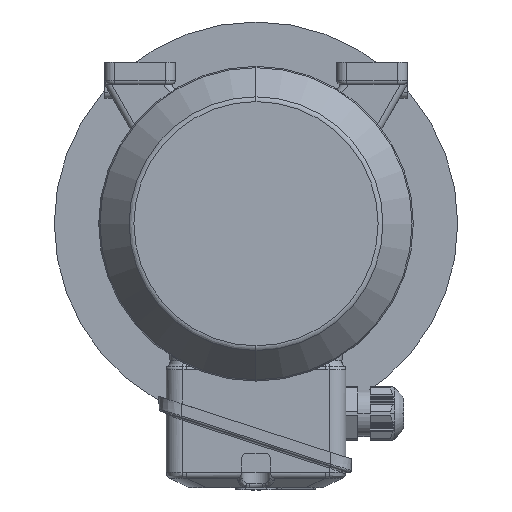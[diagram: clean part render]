
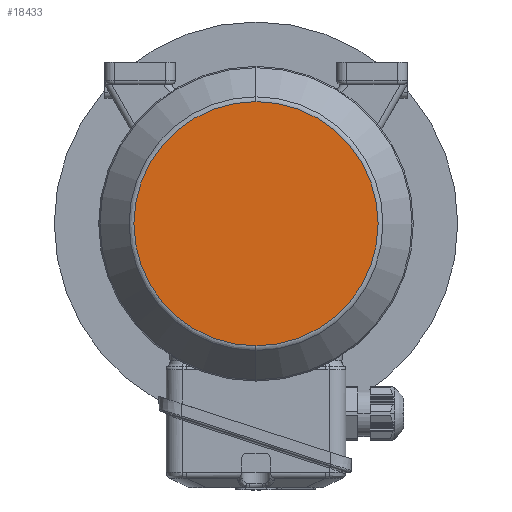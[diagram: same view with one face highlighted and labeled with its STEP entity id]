
A CAD part, left-side view. The second image highlights one B-rep face of the part: STEP entity #18433.
In plain terms, the highlighted planar face has unit normal (-1, 0, 0).
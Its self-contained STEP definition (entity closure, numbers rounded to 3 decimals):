
#1588 = DIRECTION ( 'NONE',  ( 0., 1., 0. ) ) ;
#6030 = PLANE ( 'NONE',  #34022 ) ;
#6274 = CIRCLE ( 'NONE', #38525, 60.537 ) ;
#6328 = DIRECTION ( 'NONE',  ( 1., 0., 0. ) ) ;
#9253 = CARTESIAN_POINT ( 'NONE',  ( -140.15, 0., 60.537 ) ) ;
#9802 = CARTESIAN_POINT ( 'NONE',  ( -140.15, 0., -60.537 ) ) ;
#10009 = EDGE_CURVE ( 'NONE', #27170, #13092, #6274, .T. ) ;
#13092 = VERTEX_POINT ( 'NONE', #9253 ) ;
#18433 = ADVANCED_FACE ( 'NONE', ( #27991 ), #6030, .T. ) ;
#21809 = EDGE_CURVE ( 'NONE', #13092, #27170, #23081, .T. ) ;
#23081 = CIRCLE ( 'NONE', #24023, 60.537 ) ;
#24023 = AXIS2_PLACEMENT_3D ( 'NONE', #35676, #24820, #46922 ) ;
#24820 = DIRECTION ( 'NONE',  ( 1., 0., 0. ) ) ;
#25428 = DIRECTION ( 'NONE',  ( 0., 0., -1. ) ) ;
#27170 = VERTEX_POINT ( 'NONE', #39614 ) ;
#27991 = FACE_OUTER_BOUND ( 'NONE', #29398, .T. ) ;
#29398 = EDGE_LOOP ( 'NONE', ( #36490, #32242 ) ) ;
#32242 = ORIENTED_EDGE ( 'NONE', *, *, #21809, .F. ) ;
#34022 = AXIS2_PLACEMENT_3D ( 'NONE', #9802, #43785, #1588 ) ;
#35676 = CARTESIAN_POINT ( 'NONE',  ( -140.15, 0., 0. ) ) ;
#36145 = CARTESIAN_POINT ( 'NONE',  ( -140.15, 0., 0. ) ) ;
#36490 = ORIENTED_EDGE ( 'NONE', *, *, #10009, .F. ) ;
#38525 = AXIS2_PLACEMENT_3D ( 'NONE', #36145, #6328, #25428 ) ;
#39614 = CARTESIAN_POINT ( 'NONE',  ( -140.15, 0., -60.537 ) ) ;
#43785 = DIRECTION ( 'NONE',  ( -1., 0., 0. ) ) ;
#46922 = DIRECTION ( 'NONE',  ( 0., 0., -1. ) ) ;
